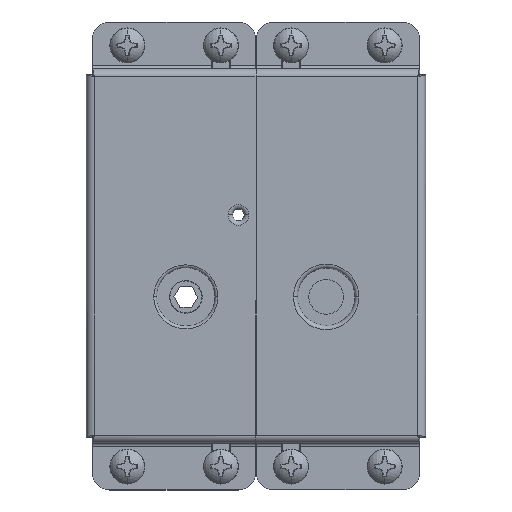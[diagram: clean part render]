
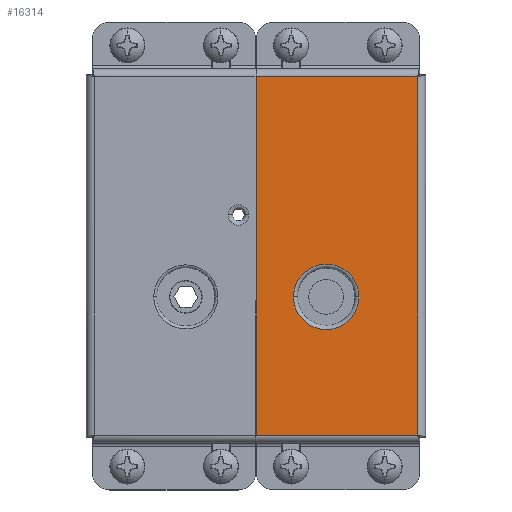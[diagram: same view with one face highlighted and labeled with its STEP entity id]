
A CAD part, top view. The second image highlights one B-rep face of the part: STEP entity #16314.
In plain terms, the highlighted planar face has unit normal (0, 0, 1).
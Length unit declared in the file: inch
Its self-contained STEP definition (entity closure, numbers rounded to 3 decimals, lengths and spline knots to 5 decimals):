
#389 = VERTEX_POINT ( 'NONE', #1538 ) ;
#1538 = CARTESIAN_POINT ( 'NONE',  ( -0.505, -0.4375, 0.25 ) ) ;
#6213 = VERTEX_POINT ( 'NONE', #8959 ) ;
#8959 = CARTESIAN_POINT ( 'NONE',  ( 0.193, -0.4375, 0.25 ) ) ;
#9017 = DIRECTION ( 'NONE',  ( -1., 0., 0. ) ) ;
#9018 = DIRECTION ( 'NONE',  ( 0., 0., -1. ) ) ;
#9028 = CARTESIAN_POINT ( 'NONE',  ( -0.156, -0.4375, 0.25 ) ) ;
#9037 = CIRCLE ( 'NONE', #9038, 0.349 ) ;
#9038 = AXIS2_PLACEMENT_3D ( 'NONE', #9028, #9018, #9017 ) ;
#12013 = CARTESIAN_POINT ( 'NONE',  ( 0.82095, -1.91495, 0.25 ) ) ;
#12033 = CARTESIAN_POINT ( 'NONE',  ( -0.906, -1.91495, 0.25 ) ) ;
#12058 = DIRECTION ( 'NONE',  ( 0., -1., 0. ) ) ;
#12059 = VECTOR ( 'NONE', #12058, 39.37008 ) ;
#12065 = LINE ( 'NONE', #12072, #12059 ) ;
#12070 = DIRECTION ( 'NONE',  ( 1., 0., 0. ) ) ;
#12071 = VECTOR ( 'NONE', #12070, 39.37008 ) ;
#12072 = CARTESIAN_POINT ( 'NONE',  ( -0.906, 2., 0.25 ) ) ;
#12075 = LINE ( 'NONE', #12033, #12071 ) ;
#12146 = AXIS2_PLACEMENT_3D ( 'NONE', #12210, #12196, #12195 ) ;
#12157 = CARTESIAN_POINT ( 'NONE',  ( -0.906, -1.91495, 0.25 ) ) ;
#12159 = AXIS2_PLACEMENT_3D ( 'NONE', #12198, #12190, #12189 ) ;
#12161 = CARTESIAN_POINT ( 'NONE',  ( 0.84513, 1.91495, 0.25 ) ) ;
#12163 = CIRCLE ( 'NONE', #12146, 0.349 ) ;
#12177 = CARTESIAN_POINT ( 'NONE',  ( 0.82095, 1.91495, 0.25 ) ) ;
#12183 = CARTESIAN_POINT ( 'NONE',  ( -0.906, 1.91495, 0.25 ) ) ;
#12189 = DIRECTION ( 'NONE',  ( -1., 0., 0. ) ) ;
#12190 = DIRECTION ( 'NONE',  ( 0., 0., -1. ) ) ;
#12195 = DIRECTION ( 'NONE',  ( -1., 0., 0. ) ) ;
#12196 = DIRECTION ( 'NONE',  ( 0., 0., -1. ) ) ;
#12198 = CARTESIAN_POINT ( 'NONE',  ( -0.906, 2., 0.25 ) ) ;
#12199 = FACE_OUTER_BOUND ( 'NONE', #16336, .T. ) ;
#12201 = FACE_BOUND ( 'NONE', #16315, .T. ) ;
#12207 = DIRECTION ( 'NONE',  ( 0., 1., 0. ) ) ;
#12208 = VECTOR ( 'NONE', #12207, 39.37008 ) ;
#12209 = CARTESIAN_POINT ( 'NONE',  ( 0.82095, -1.93913, 0.25 ) ) ;
#12210 = CARTESIAN_POINT ( 'NONE',  ( -0.156, -0.4375, 0.25 ) ) ;
#12211 = LINE ( 'NONE', #12209, #12208 ) ;
#12212 = PLANE ( 'NONE',  #12159 ) ;
#12213 = DIRECTION ( 'NONE',  ( -1., 0., 0. ) ) ;
#12214 = VECTOR ( 'NONE', #12213, 39.37008 ) ;
#12215 = LINE ( 'NONE', #12161, #12214 ) ;
#12603 = EDGE_CURVE ( 'NONE', #389, #6213, #9037, .T. ) ;
#16234 = VERTEX_POINT ( 'NONE', #12013 ) ;
#16270 = EDGE_CURVE ( 'NONE', #16301, #16234, #12075, .T. ) ;
#16275 = ORIENTED_EDGE ( 'NONE', *, *, #16276, .T. ) ;
#16276 = EDGE_CURVE ( 'NONE', #16327, #16301, #12065, .T. ) ;
#16278 = ORIENTED_EDGE ( 'NONE', *, *, #16308, .T. ) ;
#16279 = ORIENTED_EDGE ( 'NONE', *, *, #16309, .T. ) ;
#16301 = VERTEX_POINT ( 'NONE', #12157 ) ;
#16308 = EDGE_CURVE ( 'NONE', #16322, #16327, #12215, .T. ) ;
#16309 = EDGE_CURVE ( 'NONE', #16234, #16322, #12211, .T. ) ;
#16312 = EDGE_CURVE ( 'NONE', #6213, #389, #12163, .T. ) ;
#16313 = ORIENTED_EDGE ( 'NONE', *, *, #16312, .T. ) ;
#16314 = ADVANCED_FACE ( 'NONE', ( #12201, #12199 ), #12212, .F. ) ;
#16315 = EDGE_LOOP ( 'NONE', ( #16326, #16313 ) ) ;
#16322 = VERTEX_POINT ( 'NONE', #12177 ) ;
#16326 = ORIENTED_EDGE ( 'NONE', *, *, #12603, .T. ) ;
#16327 = VERTEX_POINT ( 'NONE', #12183 ) ;
#16336 = EDGE_LOOP ( 'NONE', ( #16279, #16278, #16275, #16337 ) ) ;
#16337 = ORIENTED_EDGE ( 'NONE', *, *, #16270, .T. ) ;
